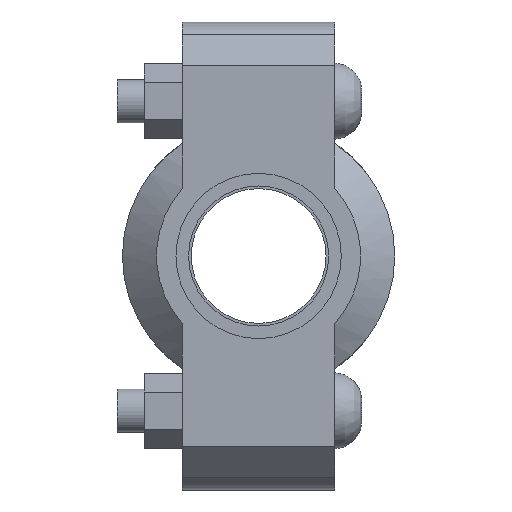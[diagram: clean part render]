
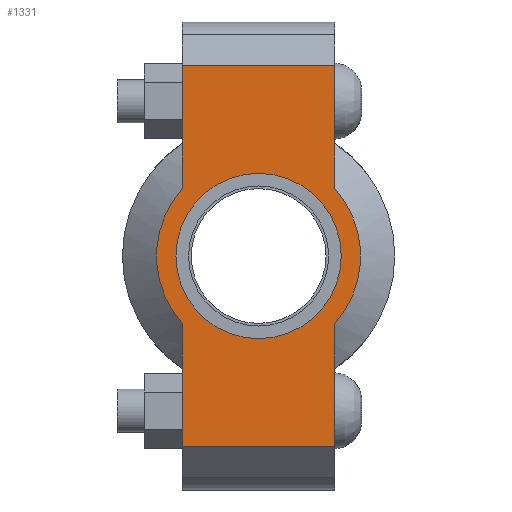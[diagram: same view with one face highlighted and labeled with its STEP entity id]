
A CAD part, left-side view. The second image highlights one B-rep face of the part: STEP entity #1331.
In plain terms, the highlighted planar face has unit normal (-1, 0, 0) as drawn and (0, 0, 1) by its records, which use the part's own axes.
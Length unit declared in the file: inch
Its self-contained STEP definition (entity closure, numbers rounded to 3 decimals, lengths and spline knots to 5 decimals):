
#103=LINE('',#2263,#194);
#118=LINE('',#2322,#209);
#126=LINE('',#2352,#217);
#128=LINE('',#2355,#219);
#129=LINE('',#2360,#220);
#130=LINE('',#2361,#221);
#194=VECTOR('',#1838,0.3937);
#209=VECTOR('',#1873,0.3937);
#217=VECTOR('',#1893,0.3937);
#219=VECTOR('',#1897,0.3937);
#220=VECTOR('',#1902,0.3937);
#221=VECTOR('',#1903,0.3937);
#273=FACE_BOUND('',#420,.T.);
#329=FACE_OUTER_BOUND('',#419,.T.);
#419=EDGE_LOOP('',(#1063,#1064,#1065,#1066,#1067,#1068,#1069,#1070));
#420=EDGE_LOOP('',(#1071));
#478=CIRCLE('',#1504,0.95);
#502=CIRCLE('',#1556,1.172);
#503=CIRCLE('',#1557,1.172);
#550=VERTEX_POINT('',#2089);
#591=VERTEX_POINT('',#2260);
#592=VERTEX_POINT('',#2262);
#613=VERTEX_POINT('',#2317);
#614=VERTEX_POINT('',#2321);
#623=VERTEX_POINT('',#2347);
#624=VERTEX_POINT('',#2351);
#625=VERTEX_POINT('',#2357);
#626=VERTEX_POINT('',#2359);
#684=EDGE_CURVE('',#550,#550,#478,.T.);
#741=EDGE_CURVE('',#592,#591,#103,.T.);
#766=EDGE_CURVE('',#614,#613,#118,.T.);
#779=EDGE_CURVE('',#624,#623,#126,.T.);
#781=EDGE_CURVE('',#624,#591,#128,.T.);
#782=EDGE_CURVE('',#623,#625,#502,.T.);
#783=EDGE_CURVE('',#625,#626,#129,.T.);
#784=EDGE_CURVE('',#614,#626,#130,.T.);
#785=EDGE_CURVE('',#613,#592,#503,.T.);
#1063=ORIENTED_EDGE('',*,*,#781,.F.);
#1064=ORIENTED_EDGE('',*,*,#779,.T.);
#1065=ORIENTED_EDGE('',*,*,#782,.T.);
#1066=ORIENTED_EDGE('',*,*,#783,.T.);
#1067=ORIENTED_EDGE('',*,*,#784,.F.);
#1068=ORIENTED_EDGE('',*,*,#766,.T.);
#1069=ORIENTED_EDGE('',*,*,#785,.T.);
#1070=ORIENTED_EDGE('',*,*,#741,.T.);
#1071=ORIENTED_EDGE('',*,*,#684,.T.);
#1196=PLANE('',#1555);
#1331=ADVANCED_FACE('',(#329,#273),#1196,.T.);
#1504=AXIS2_PLACEMENT_3D('',#2091,#1728,#1729);
#1555=AXIS2_PLACEMENT_3D('',#2356,#1898,#1899);
#1556=AXIS2_PLACEMENT_3D('',#2358,#1900,#1901);
#1557=AXIS2_PLACEMENT_3D('',#2362,#1904,#1905);
#1728=DIRECTION('center_axis',(0.,0.,-1.));
#1729=DIRECTION('ref_axis',(-1.,0.,0.));
#1838=DIRECTION('',(-1.,0.,0.));
#1873=DIRECTION('',(-1.,0.,0.));
#1893=DIRECTION('',(1.,0.,0.));
#1897=DIRECTION('',(0.,1.,0.));
#1898=DIRECTION('center_axis',(0.,0.,1.));
#1899=DIRECTION('ref_axis',(1.,0.,0.));
#1900=DIRECTION('center_axis',(0.,0.,1.));
#1901=DIRECTION('ref_axis',(-1.,0.,0.));
#1902=DIRECTION('',(1.,0.,0.));
#1903=DIRECTION('',(0.,-1.,0.));
#1904=DIRECTION('center_axis',(0.,0.,1.));
#1905=DIRECTION('ref_axis',(-1.,0.,0.));
#2089=CARTESIAN_POINT('',(0.95,0.,0.94));
#2091=CARTESIAN_POINT('Origin',(0.,0.,0.94));
#2260=CARTESIAN_POINT('',(-2.19,0.875,0.94));
#2262=CARTESIAN_POINT('',(-0.77972,0.875,0.94));
#2263=CARTESIAN_POINT('',(2.69,0.875,0.94));
#2317=CARTESIAN_POINT('',(0.77972,0.875,0.94));
#2321=CARTESIAN_POINT('',(2.19,0.875,0.94));
#2322=CARTESIAN_POINT('',(2.69,0.875,0.94));
#2347=CARTESIAN_POINT('',(-0.77972,-0.875,0.94));
#2351=CARTESIAN_POINT('',(-2.19,-0.875,0.94));
#2352=CARTESIAN_POINT('',(-2.69,-0.875,0.94));
#2355=CARTESIAN_POINT('',(-2.19,0.4375,0.94));
#2356=CARTESIAN_POINT('Origin',(0.,0.,0.94));
#2357=CARTESIAN_POINT('',(0.77972,-0.875,0.94));
#2358=CARTESIAN_POINT('Origin',(0.,0.,0.94));
#2359=CARTESIAN_POINT('',(2.19,-0.875,0.94));
#2360=CARTESIAN_POINT('',(-2.69,-0.875,0.94));
#2361=CARTESIAN_POINT('',(2.19,-0.4375,0.94));
#2362=CARTESIAN_POINT('Origin',(0.,0.,0.94));
